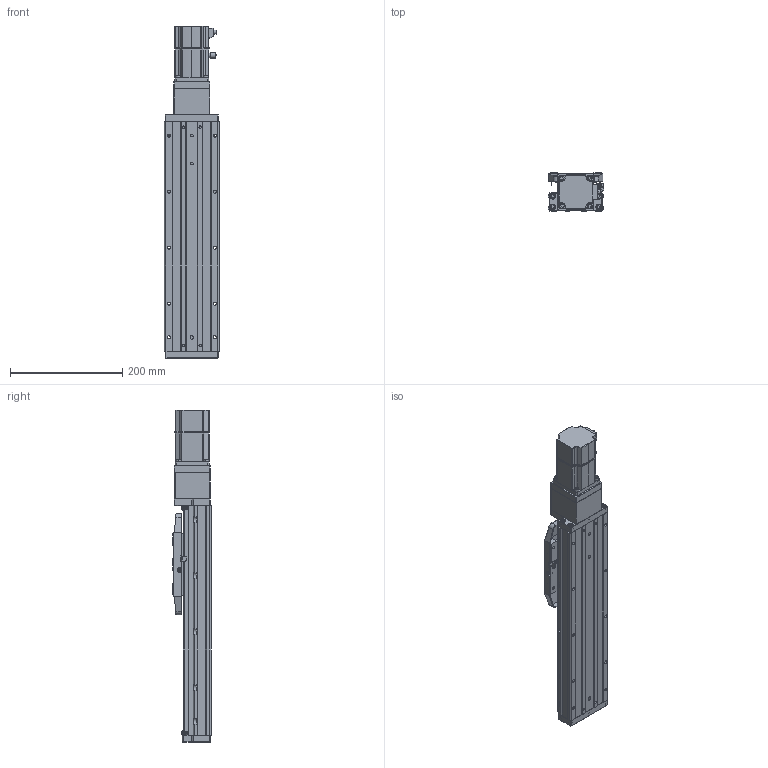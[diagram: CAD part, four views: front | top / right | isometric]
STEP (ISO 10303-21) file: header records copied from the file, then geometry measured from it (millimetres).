
FILE_DESCRIPTION (( 'STEP AP203' ), '1' );
FILE_NAME ('CTHA100-200-BC-M20-C4L.step', '2022-07-06T08:51:52', ( '微软用户' ), ( '微软中国' ), 'SwSTEP 2.0', 'SolidWorks 2020', '' );
FILE_SCHEMA (( 'CONFIG_CONTROL_DESIGN' ));
Length unit declared in the file: millimetre
Products named in the file (20): CTHA60-017; CTHA86-013; CTHA100-200-BC-M20-C4L; CTHA60-021; CTHA86-027; KTHA100-001_410; GBT77-2000 M3×3; CTHA86-006-1_CTHA86-006-2; KTHA100-004; GBT 70.1-M3℅6; GBT 70.3-M3℅6; KTHA100-005; GBT70.1 M5℅16; CTHA100-002; GB¨uT 70.2-M3¡Á5_M3¡Á6; CTHA60-016; CTHA100-031; EE_SX911P_R; _X2_4E0983F1_X0_200W_1; CTHA86-030
Assembly tree (63 placements, depth 2):
  CTHA100-200-BC-M20-C4L
    KTHA100-001_410
    KTHA100-004
    KTHA100-005
    GB¨uT 70.2-M3¡Á5_M3¡Á6  x10
    EE_SX911P_R  x3
    CTHA60-017  x3
    CTHA60-021  x2
    GBT77-2000 M3×3  x6
    GBT 70.1-M3℅6  x6
    GBT70.1 M5℅16  x14
    CTHA60-016  x2
    _X2_4E0983F1_X0_200W_1
    CTHA86-013
    CTHA86-027
    CTHA86-006-1_CTHA86-006-2
    GBT 70.3-M3℅6  x6
    CTHA100-002
    CTHA100-031
    CTHA86-030  x2
Bounding box: 98.82 x 68 x 592.5 mm (x, y, z)
Volume: 2246667.3 mm3; surface area: 419892.2 mm2
Topology: 65 solids, 65 shells, 2579 faces, 6158 edges, 3796 vertices
Faces by surface type: plane 1339, cylinder 667, cone 368, torus 112, bspline 69, sphere 24
Entity records: 43704 total; most frequent: CARTESIAN_POINT 8226, DIRECTION 6821, ORIENTED_EDGE 6588, EDGE_CURVE 3294, AXIS2_PLACEMENT_3D 2327, LINE 2167, VECTOR 2167, VERTEX_POINT 2074
